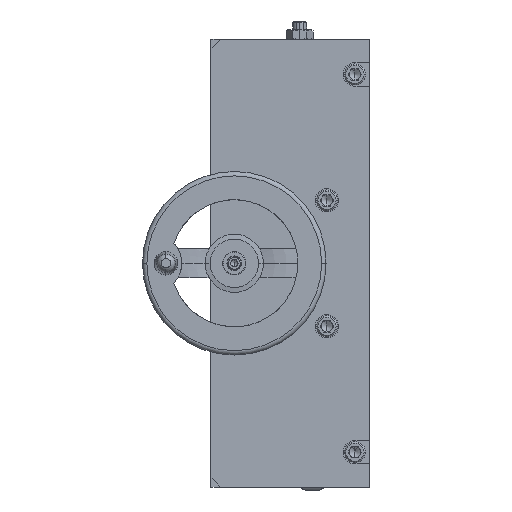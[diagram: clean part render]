
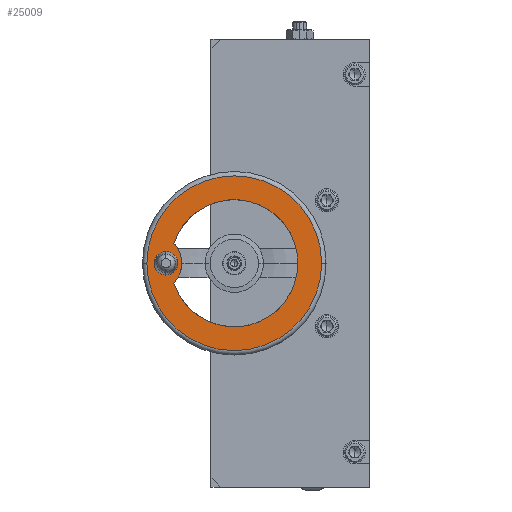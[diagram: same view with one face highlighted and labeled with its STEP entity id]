
A CAD part, left-side view. The second image highlights one B-rep face of the part: STEP entity #25009.
In plain terms, the highlighted planar face has unit normal (-1, 0, 0) as drawn and (0, 1, 0) by its records, which use the part's own axes.
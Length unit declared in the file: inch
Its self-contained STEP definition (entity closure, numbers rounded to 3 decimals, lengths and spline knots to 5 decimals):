
#807 = FACE_BOUND ( 'NONE', #6408, .T. ) ;
#810 = DIRECTION ( 'NONE',  ( 0., 1., 0. ) ) ;
#814 = FACE_BOUND ( 'NONE', #6388, .T. ) ;
#815 = CARTESIAN_POINT ( 'NONE',  ( 1.70472, 1.5748, 0. ) ) ;
#817 = FACE_OUTER_BOUND ( 'NONE', #6210, .T. ) ;
#818 = PLANE ( 'NONE',  #9679 ) ;
#819 = DIRECTION ( 'NONE',  ( 0., 0., 1. ) ) ;
#1272 = CARTESIAN_POINT ( 'NONE',  ( 0., 1.5748, -1.83071 ) ) ;
#1360 = EDGE_CURVE ( 'NONE', #18680, #19129, #15236, .T. ) ;
#1420 = DIRECTION ( 'NONE',  ( 0., 1., 0. ) ) ;
#1425 = DIRECTION ( 'NONE',  ( 0., 0., 1. ) ) ;
#3838 = CARTESIAN_POINT ( 'NONE',  ( 0., 1.5748, -2.34252 ) ) ;
#3849 = CARTESIAN_POINT ( 'NONE',  ( 0.53459, 1.5748, -1.61873 ) ) ;
#3886 = CARTESIAN_POINT ( 'NONE',  ( 0., 1.5748, 2.34252 ) ) ;
#3895 = CARTESIAN_POINT ( 'NONE',  ( 0., 1.5748, -1.40945 ) ) ;
#3902 = CARTESIAN_POINT ( 'NONE',  ( 0.31496, 1.5748, -1.83071 ) ) ;
#6210 = EDGE_LOOP ( 'NONE', ( #19106, #19180 ) ) ;
#6388 = EDGE_LOOP ( 'NONE', ( #18209, #19219 ) ) ;
#6408 = EDGE_LOOP ( 'NONE', ( #18205, #19195, #19213, #19176 ) ) ;
#6586 = EDGE_CURVE ( 'NONE', #18564, #18511, #15294, .T. ) ;
#6873 = EDGE_CURVE ( 'NONE', #19076, #18995, #15608, .T. ) ;
#6895 = EDGE_CURVE ( 'NONE', #18960, #19060, #15573, .T. ) ;
#6906 = EDGE_CURVE ( 'NONE', #18564, #19076, #15562, .T. ) ;
#6992 = EDGE_CURVE ( 'NONE', #19129, #18680, #15082, .T. ) ;
#7006 = EDGE_CURVE ( 'NONE', #19060, #18960, #15061, .T. ) ;
#7033 = EDGE_CURVE ( 'NONE', #18511, #18995, #15022, .T. ) ;
#9679 = AXIS2_PLACEMENT_3D ( 'NONE', #815, #810, #819 ) ;
#12574 = CARTESIAN_POINT ( 'NONE',  ( 0., 1.5748, 0. ) ) ;
#12584 = DIRECTION ( 'NONE',  ( 0., 0., 1. ) ) ;
#12590 = CARTESIAN_POINT ( 'NONE',  ( 0., 1.5748, -2.19685 ) ) ;
#12619 = DIRECTION ( 'NONE',  ( 0., 1., 0. ) ) ;
#12632 = DIRECTION ( 'NONE',  ( 0., 1., 0. ) ) ;
#12639 = DIRECTION ( 'NONE',  ( 1., 0., 0. ) ) ;
#12771 = CARTESIAN_POINT ( 'NONE',  ( 0., 1.5748, 0. ) ) ;
#12772 = DIRECTION ( 'NONE',  ( 0., 1., 0. ) ) ;
#12773 = DIRECTION ( 'NONE',  ( 0., 0., 1. ) ) ;
#15019 = AXIS2_PLACEMENT_3D ( 'NONE', #12771, #12772, #12773 ) ;
#15022 = CIRCLE ( 'NONE', #15019, 1.70472 ) ;
#15055 = AXIS2_PLACEMENT_3D ( 'NONE', #19910, #19829, #19926 ) ;
#15061 = CIRCLE ( 'NONE', #15055, 2.34252 ) ;
#15077 = AXIS2_PLACEMENT_3D ( 'NONE', #19961, #19782, #19879 ) ;
#15082 = CIRCLE ( 'NONE', #15077, 0.31496 ) ;
#15236 = CIRCLE ( 'NONE', #15306, 0.31496 ) ;
#15294 = CIRCLE ( 'NONE', #15392, 1.70472 ) ;
#15306 = AXIS2_PLACEMENT_3D ( 'NONE', #1272, #1420, #1425 ) ;
#15392 = AXIS2_PLACEMENT_3D ( 'NONE', #24604, #24603, #24602 ) ;
#15561 = AXIS2_PLACEMENT_3D ( 'NONE', #15928, #15929, #15930 ) ;
#15562 = CIRCLE ( 'NONE', #15561, 0.7874 ) ;
#15571 = AXIS2_PLACEMENT_3D ( 'NONE', #12574, #12632, #12584 ) ;
#15573 = CIRCLE ( 'NONE', #15571, 2.34252 ) ;
#15596 = AXIS2_PLACEMENT_3D ( 'NONE', #12590, #12619, #12639 ) ;
#15608 = CIRCLE ( 'NONE', #15596, 0.7874 ) ;
#15928 = CARTESIAN_POINT ( 'NONE',  ( 0., 1.5748, -2.19685 ) ) ;
#15929 = DIRECTION ( 'NONE',  ( 0., 1., 0. ) ) ;
#15930 = DIRECTION ( 'NONE',  ( 1., 0., 0. ) ) ;
#18205 = ORIENTED_EDGE ( 'NONE', *, *, #6906, .T. ) ;
#18209 = ORIENTED_EDGE ( 'NONE', *, *, #1360, .F. ) ;
#18511 = VERTEX_POINT ( 'NONE', #21178 ) ;
#18564 = VERTEX_POINT ( 'NONE', #21210 ) ;
#18680 = VERTEX_POINT ( 'NONE', #21255 ) ;
#18960 = VERTEX_POINT ( 'NONE', #3838 ) ;
#18995 = VERTEX_POINT ( 'NONE', #3849 ) ;
#19060 = VERTEX_POINT ( 'NONE', #3886 ) ;
#19076 = VERTEX_POINT ( 'NONE', #3895 ) ;
#19106 = ORIENTED_EDGE ( 'NONE', *, *, #7006, .T. ) ;
#19129 = VERTEX_POINT ( 'NONE', #3902 ) ;
#19176 = ORIENTED_EDGE ( 'NONE', *, *, #6586, .F. ) ;
#19180 = ORIENTED_EDGE ( 'NONE', *, *, #6895, .T. ) ;
#19195 = ORIENTED_EDGE ( 'NONE', *, *, #6873, .T. ) ;
#19213 = ORIENTED_EDGE ( 'NONE', *, *, #7033, .F. ) ;
#19219 = ORIENTED_EDGE ( 'NONE', *, *, #6992, .F. ) ;
#19782 = DIRECTION ( 'NONE',  ( 0., 1., 0. ) ) ;
#19829 = DIRECTION ( 'NONE',  ( 0., 1., 0. ) ) ;
#19879 = DIRECTION ( 'NONE',  ( 0., 0., 1. ) ) ;
#19910 = CARTESIAN_POINT ( 'NONE',  ( 0., 1.5748, 0. ) ) ;
#19926 = DIRECTION ( 'NONE',  ( 0., 0., 1. ) ) ;
#19961 = CARTESIAN_POINT ( 'NONE',  ( 0., 1.5748, -1.83071 ) ) ;
#21178 = CARTESIAN_POINT ( 'NONE',  ( 0., 1.5748, 1.70472 ) ) ;
#21210 = CARTESIAN_POINT ( 'NONE',  ( -0.53459, 1.5748, -1.61873 ) ) ;
#21255 = CARTESIAN_POINT ( 'NONE',  ( -0.31496, 1.5748, -1.83071 ) ) ;
#24602 = DIRECTION ( 'NONE',  ( 0., 0., 1. ) ) ;
#24603 = DIRECTION ( 'NONE',  ( 0., 1., 0. ) ) ;
#24604 = CARTESIAN_POINT ( 'NONE',  ( 0., 1.5748, 0. ) ) ;
#25009 = ADVANCED_FACE ( 'NONE', ( #814, #807, #817 ), #818, .T. ) ;
